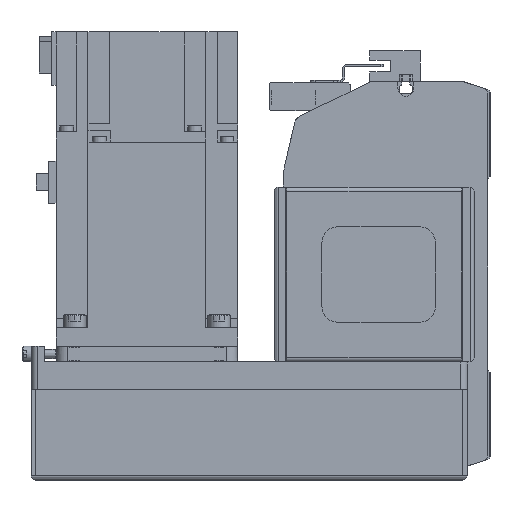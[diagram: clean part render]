
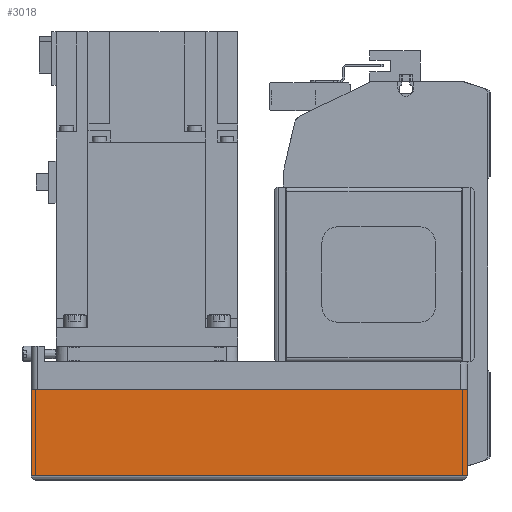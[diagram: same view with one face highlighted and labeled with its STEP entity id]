
A CAD part, left-side view. The second image highlights one B-rep face of the part: STEP entity #3018.
In plain terms, the highlighted planar face has unit normal (-1, 0, 0) as drawn and (0, -1, 0) by its records, which use the part's own axes.
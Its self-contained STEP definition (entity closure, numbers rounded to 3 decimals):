
#3018 = ADVANCED_FACE( '', ( #6334 ), #6335, .T. );
#6334 = FACE_OUTER_BOUND( '', #9766, .T. );
#6335 = PLANE( '', #9767 );
#9766 = EDGE_LOOP( '', ( #18344, #18345, #18346, #18347 ) );
#9767 = AXIS2_PLACEMENT_3D( '', #18348, #18349, #18350 );
#18344 = ORIENTED_EDGE( '', *, *, #22052, .F. );
#18345 = ORIENTED_EDGE( '', *, *, #22849, .F. );
#18346 = ORIENTED_EDGE( '', *, *, #22671, .T. );
#18347 = ORIENTED_EDGE( '', *, *, #22850, .T. );
#18348 = CARTESIAN_POINT( '', ( -192., -40., -12.1 ) );
#18349 = DIRECTION( '', ( 0., -1., 0. ) );
#18350 = DIRECTION( '', ( 0., 0., -1. ) );
#22052 = EDGE_CURVE( '', #27186, #27187, #27188, .T. );
#22671 = EDGE_CURVE( '', #27977, #27109, #27978, .T. );
#22849 = EDGE_CURVE( '', #27977, #27186, #28176, .T. );
#22850 = EDGE_CURVE( '', #27109, #27187, #28177, .T. );
#27109 = VERTEX_POINT( '', #34664 );
#27186 = VERTEX_POINT( '', #34781 );
#27187 = VERTEX_POINT( '', #34782 );
#27188 = LINE( '', #34783, #34784 );
#27977 = VERTEX_POINT( '', #35889 );
#27978 = LINE( '', #35890, #35891 );
#28176 = LINE( '', #36152, #36153 );
#28177 = LINE( '', #36154, #36155 );
#34664 = CARTESIAN_POINT( '', ( -192., -40., -50. ) );
#34781 = CARTESIAN_POINT( '', ( 0., -40., -12.1 ) );
#34782 = CARTESIAN_POINT( '', ( 0., -40., -50. ) );
#34783 = CARTESIAN_POINT( '', ( 0., -40., -12.1 ) );
#34784 = VECTOR( '', #39604, 1000. );
#35889 = CARTESIAN_POINT( '', ( -192., -40., -12.1 ) );
#35890 = CARTESIAN_POINT( '', ( -192., -40., -12.1 ) );
#35891 = VECTOR( '', #40267, 1000. );
#36152 = CARTESIAN_POINT( '', ( -192., -40., -12.1 ) );
#36153 = VECTOR( '', #40406, 1000. );
#36154 = CARTESIAN_POINT( '', ( -192., -40., -50. ) );
#36155 = VECTOR( '', #40407, 1000. );
#39604 = DIRECTION( '', ( 0., 0., -1. ) );
#40267 = DIRECTION( '', ( 0., 0., -1. ) );
#40406 = DIRECTION( '', ( 1., 0., 0. ) );
#40407 = DIRECTION( '', ( 1., 0., 0. ) );
